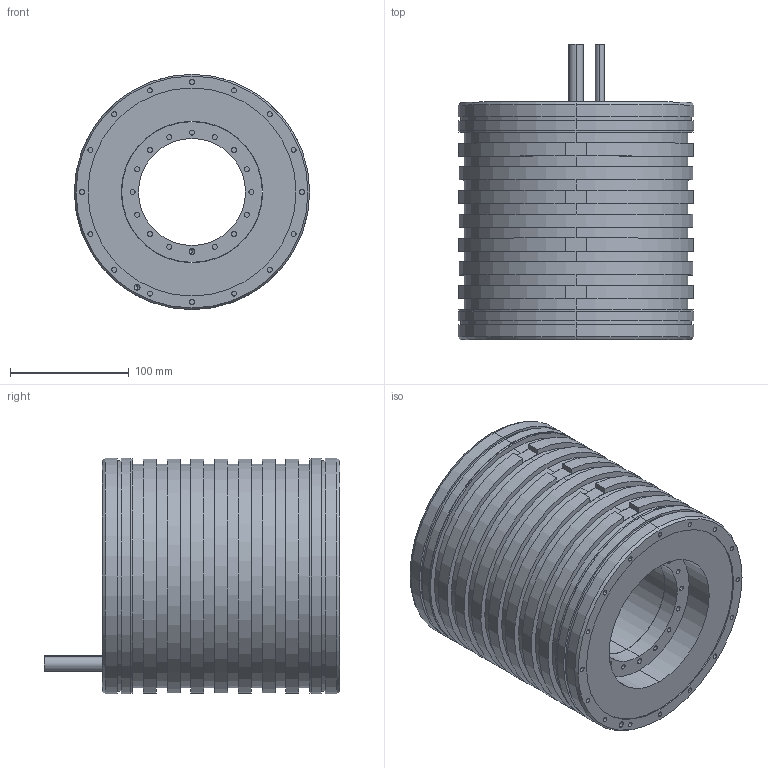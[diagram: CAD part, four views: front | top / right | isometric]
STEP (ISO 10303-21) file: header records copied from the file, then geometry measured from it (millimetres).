
FILE_DESCRIPTION (( 'STEP AP203' ), '1' );
FILE_NAME ('TM-2-2F.STEP', '2020-10-20T05:40:45', ( '' ), ( '' ), 'SwSTEP 2.0', 'SolidWorks 2015', '' );
FILE_SCHEMA (( 'CONFIG_CONTROL_DESIGN' ));
Length unit declared in the file: millimetre
Products named in the file (3): TM-2-2X_stator_TM-2-2F_stator; TM-2-2X_rotor_TM-2-2F_rotor; TM-2-2F
Assembly tree (2 placements, depth 2):
  TM-2-2F
    TM-2-2X_stator_TM-2-2F_stator
    TM-2-2X_rotor_TM-2-2F_rotor
Bounding box: 198 x 249 x 198 mm (x, y, z)
Volume: 4348230.4 mm3; surface area: 408460.6 mm2
Topology: 2 solids, 2 shells, 322 faces, 684 edges, 436 vertices
Faces by surface type: cylinder 193, plane 113, cone 16
Entity records: 9051 total; most frequent: DIRECTION 1720, CARTESIAN_POINT 1439, ORIENTED_EDGE 1352, AXIS2_PLACEMENT_3D 717, EDGE_CURVE 676, VERTEX_POINT 436, EDGE_LOOP 404, CIRCLE 390
